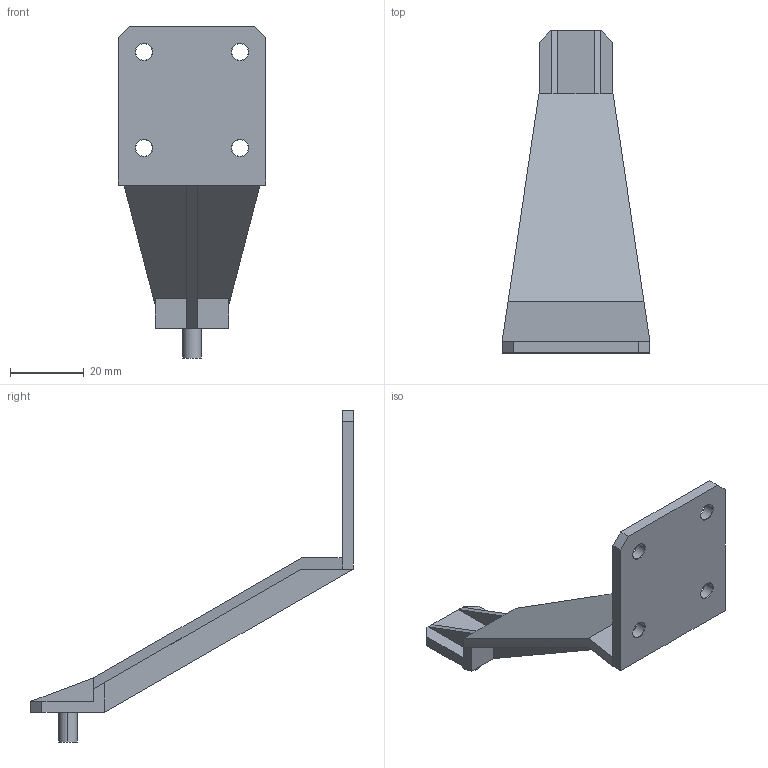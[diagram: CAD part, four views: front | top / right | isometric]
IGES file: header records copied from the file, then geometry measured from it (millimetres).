
Start section: START RECORD GO HERE.
Global section: file name: Bras support.igs; native system: IBM CATIA IGES - CATIA Version 5 Release 18 ; preprocessor: CATIA Version 5 Release 18 ; author: Fabien; organization: Fabien-Dell-DUO; date: 20160128.004811; units: millimetre
Bounding box: 40 x 87.15 x 89.77 mm (x, y, z)
Surface area: 11171.2 mm2 (no closed solid volume)
Topology: 0 solids, 0 shells, 65 faces, 308 edges, 308 vertices
Faces by surface type: plane 39, revolution 26
